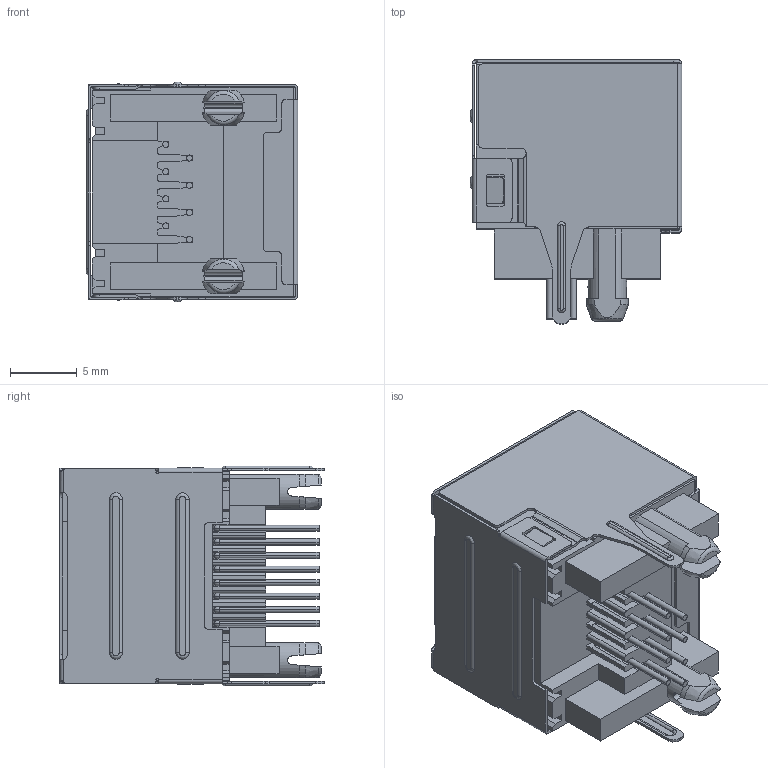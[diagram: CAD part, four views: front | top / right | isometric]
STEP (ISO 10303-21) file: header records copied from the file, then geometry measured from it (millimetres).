
FILE_DESCRIPTION((''),'2;1');
FILE_NAME('DING55D4DIKV_ASM_ASM_1_ASM_1_ASM','2025-05-08T09:11:19',('DGKYD'),(''),'CREO PARAMETRIC BY PTC INC, 2019010','CREO PARAMETRIC BY PTC INC, 2019010','');
FILE_SCHEMA(('CONFIG_CONTROL_DESIGN'));
Length unit declared in the file: millimetre
Products named in the file (10): MANIFOLD_SOLID_BREP_3664_2_1; MANIFOLD_SOLID_BREP_3665_15_1; MANIFOLD_SOLID_BREP_3666_2_1; MANIFOLD_SOLID_BREP_3667_2_1; MANIFOLD_SOLID_BREP_3668_2_1; MANIFOLD_SOLID_BREP_3669_2_1; MANIFOLD_SOLID_BREP_3670_2_1; MANIFOLD_SOLID_BREP_3671_2_1; MANIFOLD_SOLID_BREP_3672_2_1; DING55D4DIKV_ASM_ASM_1_ASM_1_ASM
Assembly tree (9 placements, depth 2):
  DING55D4DIKV_ASM_ASM_1_ASM_1_ASM
    MANIFOLD_SOLID_BREP_3664_2_1
    MANIFOLD_SOLID_BREP_3665_15_1
    MANIFOLD_SOLID_BREP_3666_2_1
    MANIFOLD_SOLID_BREP_3667_2_1
    MANIFOLD_SOLID_BREP_3668_2_1
    MANIFOLD_SOLID_BREP_3669_2_1
    MANIFOLD_SOLID_BREP_3670_2_1
    MANIFOLD_SOLID_BREP_3671_2_1
    MANIFOLD_SOLID_BREP_3672_2_1
Bounding box: 15.9 x 19.83 x 16.5 mm (x, y, z)
Volume: 1895 mm3; surface area: 4675.9 mm2
Topology: 9 solids, 9 shells, 845 faces, 2384 edges, 1538 vertices
Faces by surface type: plane 512, cylinder 241, torus 72, bspline 14, cone 4, sphere 2
Entity records: 28182 total; most frequent: CARTESIAN_POINT 5697, ORIENTED_EDGE 4764, DIRECTION 4672, EDGE_CURVE 2382, VECTOR 1604, LINE 1604, VERTEX_POINT 1538, AXIS2_PLACEMENT_3D 1534
